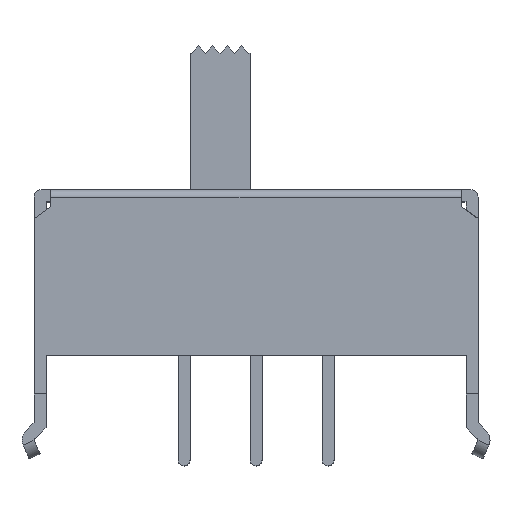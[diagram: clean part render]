
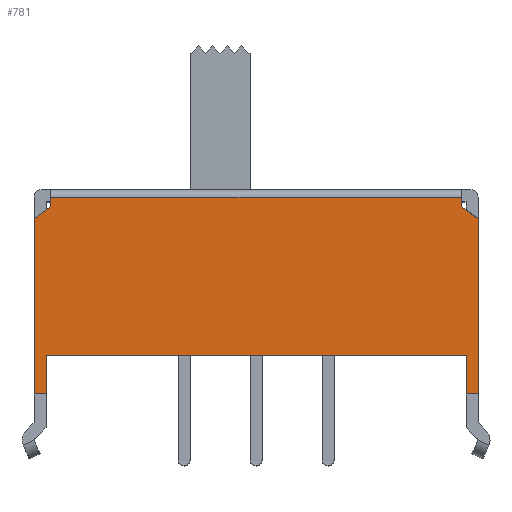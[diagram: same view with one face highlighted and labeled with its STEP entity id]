
A CAD part, top view. The second image highlights one B-rep face of the part: STEP entity #781.
In plain terms, the highlighted planar face has unit normal (0, 0, 1).
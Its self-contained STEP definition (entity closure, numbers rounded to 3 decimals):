
#9 = EDGE_CURVE ( 'NONE', #12, #96, #1409, .T. ) ;
#12 = VERTEX_POINT ( 'NONE', #1549 ) ;
#60 = ORIENTED_EDGE ( 'NONE', *, *, #500, .F. ) ;
#96 = VERTEX_POINT ( 'NONE', #1501 ) ;
#296 = EDGE_CURVE ( 'NONE', #96, #405, #1972, .T. ) ;
#350 = EDGE_CURVE ( 'NONE', #12, #358, #2140, .T. ) ;
#358 = VERTEX_POINT ( 'NONE', #2095 ) ;
#405 = VERTEX_POINT ( 'NONE', #2185 ) ;
#417 = VERTEX_POINT ( 'NONE', #2264 ) ;
#454 = VERTEX_POINT ( 'NONE', #2240 ) ;
#456 = VERTEX_POINT ( 'NONE', #2238 ) ;
#470 = VERTEX_POINT ( 'NONE', #2217 ) ;
#500 = EDGE_CURVE ( 'NONE', #470, #417, #2512, .T. ) ;
#547 = EDGE_CURVE ( 'NONE', #782, #664, #2315, .T. ) ;
#548 = ORIENTED_EDGE ( 'NONE', *, *, #350, .T. ) ;
#550 = ORIENTED_EDGE ( 'NONE', *, *, #702, .F. ) ;
#634 = ORIENTED_EDGE ( 'NONE', *, *, #680, .F. ) ;
#635 = ORIENTED_EDGE ( 'NONE', *, *, #547, .F. ) ;
#636 = ORIENTED_EDGE ( 'NONE', *, *, #9, .F. ) ;
#638 = ORIENTED_EDGE ( 'NONE', *, *, #639, .F. ) ;
#639 = EDGE_CURVE ( 'NONE', #417, #752, #2367, .T. ) ;
#662 = ORIENTED_EDGE ( 'NONE', *, *, #679, .F. ) ;
#663 = EDGE_LOOP ( 'NONE', ( #636, #548, #786, #662, #634, #635, #779, #751, #638, #60, #550, #703 ) ) ;
#664 = VERTEX_POINT ( 'NONE', #2688 ) ;
#679 = EDGE_CURVE ( 'NONE', #454, #456, #2711, .T. ) ;
#680 = EDGE_CURVE ( 'NONE', #664, #454, #2568, .T. ) ;
#695 = EDGE_CURVE ( 'NONE', #752, #783, #2573, .T. ) ;
#702 = EDGE_CURVE ( 'NONE', #405, #470, #2528, .T. ) ;
#703 = ORIENTED_EDGE ( 'NONE', *, *, #296, .F. ) ;
#751 = ORIENTED_EDGE ( 'NONE', *, *, #695, .F. ) ;
#752 = VERTEX_POINT ( 'NONE', #2665 ) ;
#779 = ORIENTED_EDGE ( 'NONE', *, *, #780, .T. ) ;
#780 = EDGE_CURVE ( 'NONE', #782, #783, #2613, .T. ) ;
#781 = ADVANCED_FACE ( 'NONE', ( #2590 ), #2589, .T. ) ;
#782 = VERTEX_POINT ( 'NONE', #2584 ) ;
#783 = VERTEX_POINT ( 'NONE', #2583 ) ;
#784 = EDGE_CURVE ( 'NONE', #358, #456, #2791, .T. ) ;
#786 = ORIENTED_EDGE ( 'NONE', *, *, #784, .T. ) ;
#1409 = LINE ( 'NONE', #1586, #1446 ) ;
#1446 = VECTOR ( 'NONE', #1541, 1000. ) ;
#1501 = CARTESIAN_POINT ( 'NONE',  ( -8.75, 1.6, 3.5 ) ) ;
#1541 = DIRECTION ( 'NONE',  ( -1., 0., 0. ) ) ;
#1549 = CARTESIAN_POINT ( 'NONE',  ( 8.75, 1.6, 3.5 ) ) ;
#1586 = CARTESIAN_POINT ( 'NONE',  ( 6.7, 1.6, 3.5 ) ) ;
#1969 = DIRECTION ( 'NONE',  ( 0., -1., 0. ) ) ;
#1970 = VECTOR ( 'NONE', #1969, 1000. ) ;
#1971 = CARTESIAN_POINT ( 'NONE',  ( -8.75, 4.7, 3.5 ) ) ;
#1972 = LINE ( 'NONE', #1971, #1970 ) ;
#2095 = CARTESIAN_POINT ( 'NONE',  ( 8.75, 0., 3.5 ) ) ;
#2137 = DIRECTION ( 'NONE',  ( 0., -1., 0. ) ) ;
#2138 = VECTOR ( 'NONE', #2137, 1000. ) ;
#2139 = CARTESIAN_POINT ( 'NONE',  ( 8.75, 4.7, 3.5 ) ) ;
#2140 = LINE ( 'NONE', #2139, #2138 ) ;
#2157 = VECTOR ( 'NONE', #2524, 1000. ) ;
#2185 = CARTESIAN_POINT ( 'NONE',  ( -8.75, 0., 3.5 ) ) ;
#2217 = CARTESIAN_POINT ( 'NONE',  ( -9.25, 0., 3.5 ) ) ;
#2238 = CARTESIAN_POINT ( 'NONE',  ( 9.25, 0., 3.5 ) ) ;
#2240 = CARTESIAN_POINT ( 'NONE',  ( 9.25, 7.3, 3.5 ) ) ;
#2264 = CARTESIAN_POINT ( 'NONE',  ( -9.25, 7.3, 3.5 ) ) ;
#2309 = DIRECTION ( 'NONE',  ( 0., 1., 0. ) ) ;
#2310 = VECTOR ( 'NONE', #2309, 1000. ) ;
#2312 = DIRECTION ( 'NONE',  ( 0., -1., 0. ) ) ;
#2313 = VECTOR ( 'NONE', #2312, 1000. ) ;
#2314 = CARTESIAN_POINT ( 'NONE',  ( 8.55, 8.5, 3.5 ) ) ;
#2315 = LINE ( 'NONE', #2314, #2313 ) ;
#2366 = CARTESIAN_POINT ( 'NONE',  ( -8.55, 7.8, 3.5 ) ) ;
#2367 = LINE ( 'NONE', #2366, #2157 ) ;
#2511 = CARTESIAN_POINT ( 'NONE',  ( -9.25, 7.3, 3.5 ) ) ;
#2512 = LINE ( 'NONE', #2511, #2310 ) ;
#2524 = DIRECTION ( 'NONE',  ( 0.814, 0.581, 0. ) ) ;
#2525 = DIRECTION ( 'NONE',  ( -1., 0., 0. ) ) ;
#2526 = VECTOR ( 'NONE', #2525, 1000. ) ;
#2527 = CARTESIAN_POINT ( 'NONE',  ( -8.75, 0., 3.5 ) ) ;
#2528 = LINE ( 'NONE', #2527, #2526 ) ;
#2565 = DIRECTION ( 'NONE',  ( 0.814, -0.581, 0. ) ) ;
#2566 = VECTOR ( 'NONE', #2565, 1000. ) ;
#2567 = CARTESIAN_POINT ( 'NONE',  ( 8.55, 7.8, 3.5 ) ) ;
#2568 = LINE ( 'NONE', #2567, #2566 ) ;
#2570 = DIRECTION ( 'NONE',  ( 0., 1., 0. ) ) ;
#2571 = VECTOR ( 'NONE', #2570, 1000. ) ;
#2572 = CARTESIAN_POINT ( 'NONE',  ( -8.55, 8.5, 3.5 ) ) ;
#2573 = LINE ( 'NONE', #2572, #2571 ) ;
#2583 = CARTESIAN_POINT ( 'NONE',  ( -8.55, 8.2, 3.5 ) ) ;
#2584 = CARTESIAN_POINT ( 'NONE',  ( 8.55, 8.2, 3.5 ) ) ;
#2585 = DIRECTION ( 'NONE',  ( 1., 0., 0. ) ) ;
#2586 = DIRECTION ( 'NONE',  ( 0., 0., 1. ) ) ;
#2587 = CARTESIAN_POINT ( 'NONE',  ( -9.25, 8., 3.5 ) ) ;
#2588 = AXIS2_PLACEMENT_3D ( 'NONE', #2587, #2586, #2585 ) ;
#2589 = PLANE ( 'NONE',  #2588 ) ;
#2590 = FACE_OUTER_BOUND ( 'NONE', #663, .T. ) ;
#2591 = VECTOR ( 'NONE', #2608, 1000. ) ;
#2608 = DIRECTION ( 'NONE',  ( -1., 0., 0. ) ) ;
#2609 = CARTESIAN_POINT ( 'NONE',  ( -9.25, 8.2, 3.5 ) ) ;
#2613 = LINE ( 'NONE', #2609, #2591 ) ;
#2665 = CARTESIAN_POINT ( 'NONE',  ( -8.55, 7.8, 3.5 ) ) ;
#2688 = CARTESIAN_POINT ( 'NONE',  ( 8.55, 7.8, 3.5 ) ) ;
#2708 = DIRECTION ( 'NONE',  ( 0., -1., 0. ) ) ;
#2709 = VECTOR ( 'NONE', #2708, 1000. ) ;
#2710 = CARTESIAN_POINT ( 'NONE',  ( 9.25, 7.3, 3.5 ) ) ;
#2711 = LINE ( 'NONE', #2710, #2709 ) ;
#2776 = VECTOR ( 'NONE', #2805, 1000. ) ;
#2791 = LINE ( 'NONE', #2797, #2776 ) ;
#2797 = CARTESIAN_POINT ( 'NONE',  ( 8.75, 0., 3.5 ) ) ;
#2805 = DIRECTION ( 'NONE',  ( 1., 0., 0. ) ) ;
